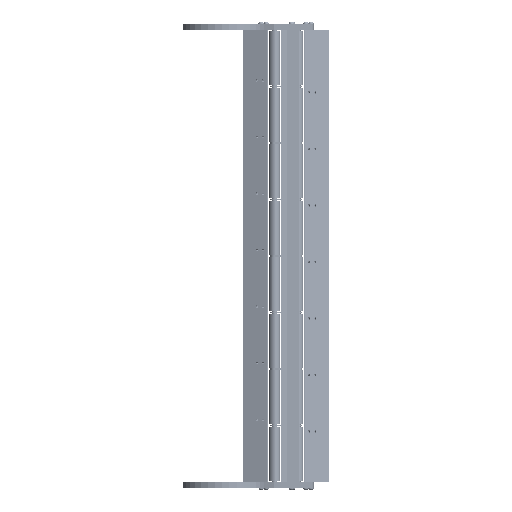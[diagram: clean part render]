
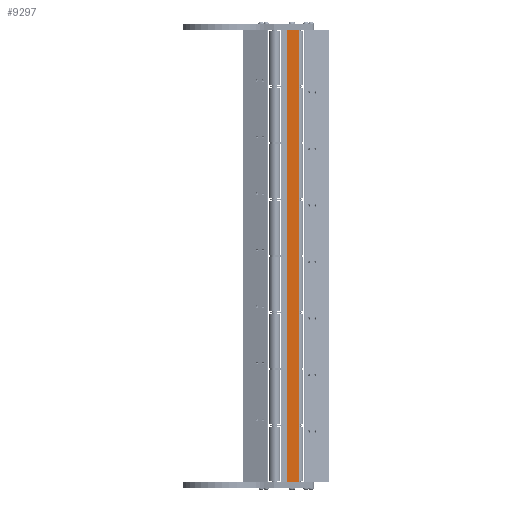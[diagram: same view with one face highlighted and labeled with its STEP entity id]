
A CAD part, front view. The second image highlights one B-rep face of the part: STEP entity #9297.
In plain terms, the highlighted planar face has unit normal (0.768, -0.641, 0) as drawn and (0, 1, 0) by its records, which use the part's own axes.
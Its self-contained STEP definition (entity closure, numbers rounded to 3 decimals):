
#407 = DIRECTION ( 'NONE',  ( 1., 0., 0. ) ) ;
#490 = VERTEX_POINT ( 'NONE', #5144 ) ;
#2190 = CARTESIAN_POINT ( 'NONE',  ( 25., 13.9, 621. ) ) ;
#2235 = ORIENTED_EDGE ( 'NONE', *, *, #4391, .F. ) ;
#2244 = ORIENTED_EDGE ( 'NONE', *, *, #17499, .T. ) ;
#2300 = VECTOR ( 'NONE', #4761, 1000. ) ;
#3037 = CARTESIAN_POINT ( 'NONE',  ( 25., 13.9, 621. ) ) ;
#3288 = LINE ( 'NONE', #6662, #13408 ) ;
#3931 = ORIENTED_EDGE ( 'NONE', *, *, #6234, .F. ) ;
#4391 = EDGE_CURVE ( 'NONE', #6988, #7462, #6307, .T. ) ;
#4761 = DIRECTION ( 'NONE',  ( 0., 0., -1. ) ) ;
#5042 = VECTOR ( 'NONE', #11439, 1000. ) ;
#5144 = CARTESIAN_POINT ( 'NONE',  ( 25., 13.9, 0. ) ) ;
#5444 = CARTESIAN_POINT ( 'NONE',  ( 25., 13.9, 621. ) ) ;
#5565 = CARTESIAN_POINT ( 'NONE',  ( 0., 13.9, 0. ) ) ;
#5976 = CARTESIAN_POINT ( 'NONE',  ( 0., 13.9, 621. ) ) ;
#6234 = EDGE_CURVE ( 'NONE', #7462, #10329, #15115, .T. ) ;
#6307 = LINE ( 'NONE', #12495, #15101 ) ;
#6480 = ORIENTED_EDGE ( 'NONE', *, *, #6907, .T. ) ;
#6662 = CARTESIAN_POINT ( 'NONE',  ( 25., 13.9, 0. ) ) ;
#6907 = EDGE_CURVE ( 'NONE', #490, #10329, #3288, .T. ) ;
#6988 = VERTEX_POINT ( 'NONE', #3037 ) ;
#7462 = VERTEX_POINT ( 'NONE', #13852 ) ;
#9297 = ADVANCED_FACE ( 'NONE', ( #18652 ), #14096, .F. ) ;
#10055 = LINE ( 'NONE', #5444, #5042 ) ;
#10329 = VERTEX_POINT ( 'NONE', #5565 ) ;
#11439 = DIRECTION ( 'NONE',  ( 0., 0., -1. ) ) ;
#11568 = AXIS2_PLACEMENT_3D ( 'NONE', #2190, #18260, #407 ) ;
#12303 = DIRECTION ( 'NONE',  ( -1., 0., 0. ) ) ;
#12495 = CARTESIAN_POINT ( 'NONE',  ( 25., 13.9, 621. ) ) ;
#13408 = VECTOR ( 'NONE', #17017, 1000. ) ;
#13852 = CARTESIAN_POINT ( 'NONE',  ( 0., 13.9, 621. ) ) ;
#14096 = PLANE ( 'NONE',  #11568 ) ;
#15101 = VECTOR ( 'NONE', #12303, 1000. ) ;
#15115 = LINE ( 'NONE', #5976, #2300 ) ;
#16762 = EDGE_LOOP ( 'NONE', ( #6480, #3931, #2235, #2244 ) ) ;
#17017 = DIRECTION ( 'NONE',  ( -1., 0., 0. ) ) ;
#17499 = EDGE_CURVE ( 'NONE', #6988, #490, #10055, .T. ) ;
#18260 = DIRECTION ( 'NONE',  ( 0., -1., 0. ) ) ;
#18652 = FACE_OUTER_BOUND ( 'NONE', #16762, .T. ) ;
